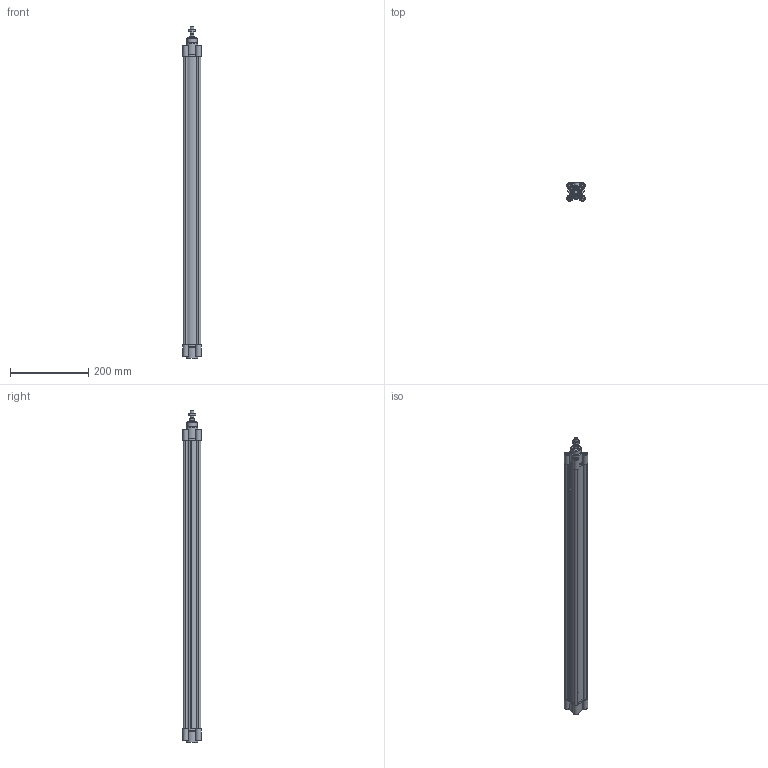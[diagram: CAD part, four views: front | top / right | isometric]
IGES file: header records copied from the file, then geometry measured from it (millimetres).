
Global section: file name: No Iges File Name specified; native system: Autodesk Inventor 2012; preprocessor: AutoDesk Inventor Iges Exporter R2012; author: pilonfr1; date: 20120128.095104; units: millimetre
Bounding box: 47 x 47 x 846.5 mm (x, y, z)
Volume: 622134.5 mm3; surface area: 412221.2 mm2
Topology: 5 solids, 5 shells, 316 faces, 788 edges, 522 vertices
Faces by surface type: plane 200, cylinder 54, revolution 39, cone 22, torus 1
Full cylindrical faces by diameter (mm): 8.8 x1, 10 x9, 11.5 x1, 12 x1, 26 x1, 30 x2, 32 x3
